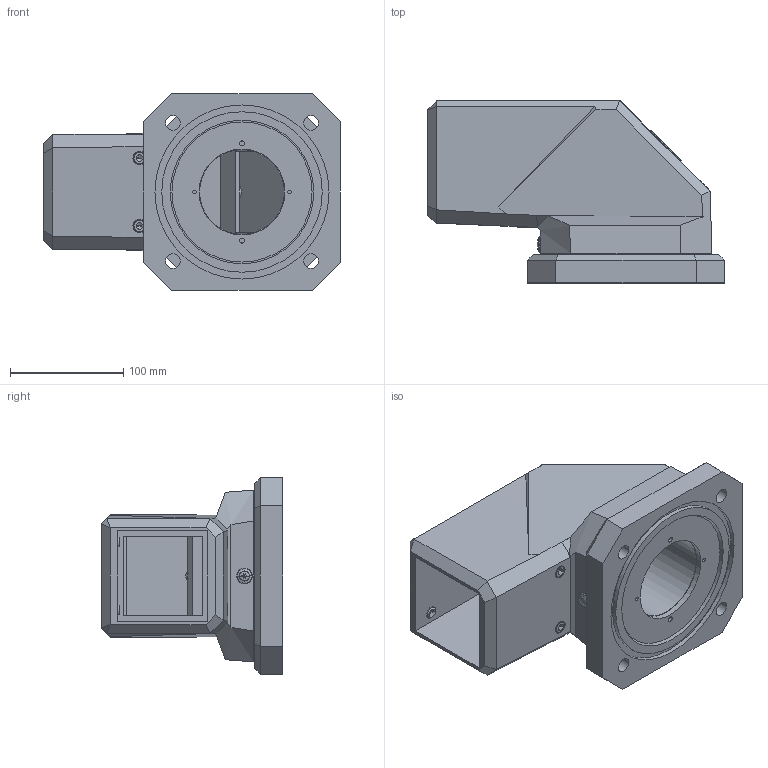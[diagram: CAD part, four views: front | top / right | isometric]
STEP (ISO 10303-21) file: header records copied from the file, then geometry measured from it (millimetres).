
FILE_DESCRIPTION((''),'2;1');
FILE_NAME('AUFSATZGELENK_CS-2000_SY-80_ASM','2010-10-08T',('M.Fehring'),(''),'PRO/ENGINEER BY PARAMETRIC TECHNOLOGY CORPORATION, 2005070','PRO/ENGINEER BY PARAMETRIC TECHNOLOGY CORPORATION, 2005070','');
FILE_SCHEMA(('AUTOMOTIVE_DESIGN_CC2 { 1 2 10303 214 -1 1 5 2 }'));
Length unit declared in the file: millimetre
Products named in the file (7): AUFSATZTGEL_OBERT_CS-2000_SY-80; AUFSATZG_UNTERT_CS-2000_SY-80; ABDECKUNG_80; 9263034000; ABDECKKAPPE_; UEBERWURFMUTTER_M95; AUFSATZGELENK_CS-2000_SY-80_ASM
Assembly tree (12 placements, depth 2):
  AUFSATZGELENK_CS-2000_SY-80_ASM
    AUFSATZTGEL_OBERT_CS-2000_SY-80
    AUFSATZG_UNTERT_CS-2000_SY-80
    ABDECKUNG_80
    9263034000  x7
    ABDECKKAPPE_
    UEBERWURFMUTTER_M95
Bounding box: 262.5 x 161 x 174 mm (x, y, z)
Volume: 2073546.3 mm3; surface area: 377348.9 mm2
Topology: 12 solids, 12 shells, 591 faces, 1410 edges, 844 vertices
Faces by surface type: plane 308, cylinder 132, cone 80, bspline 45, torus 14, sphere 12
Entity records: 18366 total; most frequent: CARTESIAN_POINT 4970, ORIENTED_EDGE 2088, DIRECTION 2061, PRESENTATION_STYLE_ASSIGNMENT 1050, STYLED_ITEM 1050, CURVE_STYLE 1044, EDGE_CURVE 1044, AXIS2_PLACEMENT_3D 739
